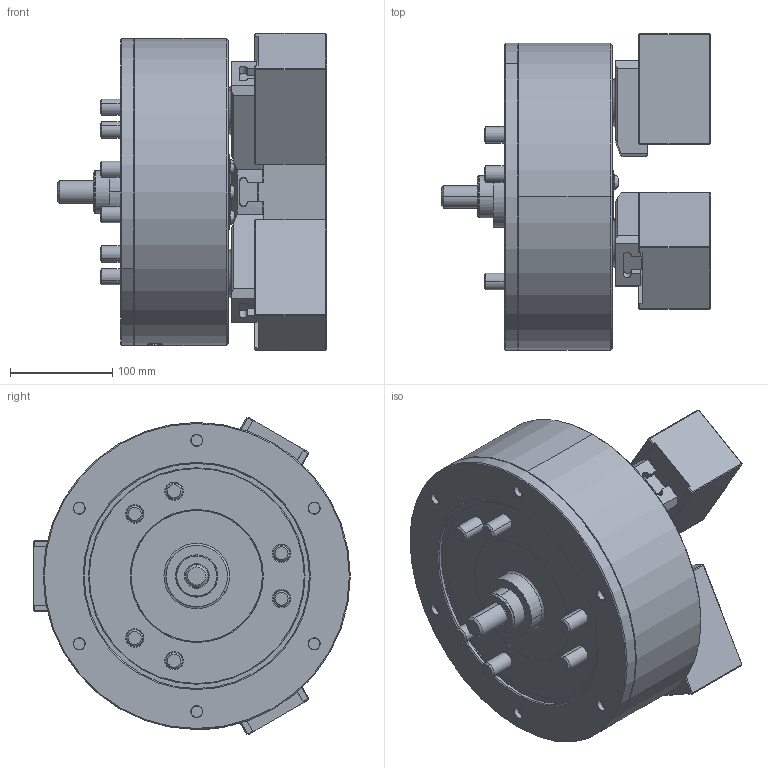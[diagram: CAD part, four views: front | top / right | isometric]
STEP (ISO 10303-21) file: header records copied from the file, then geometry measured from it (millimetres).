
FILE_DESCRIPTION (( 'STEP AP214' ), '1' );
FILE_NAME ('PW-12_CL_ID.STEP', '2025-08-18T07:02:34', ( '' ), ( '' ), 'SwSTEP 2.0', 'SolidWorks 2022', '' );
FILE_SCHEMA (( 'AUTOMOTIVE_DESIGN' ));
Length unit declared in the file: millimetre
Products named in the file (6): PW-12_CL_ID; 61P323264; 61P420193; 0030116025; 結合_ID; 0030116105
Assembly tree (19 placements, depth 2):
  PW-12_CL_ID
    61P323264  x3
    61P420193  x3
    0030116025  x6
    0030116105  x6
    結合_ID
Bounding box: 262.8 x 309.28 x 309.92 mm (x, y, z)
Volume: 9048500.1 mm3; surface area: 607298 mm2
Topology: 19 solids, 20 shells, 1618 faces, 3993 edges, 2533 vertices
Faces by surface type: plane 814, cone 332, cylinder 251, bspline 185, torus 34, sphere 2
Entity records: 46591 total; most frequent: CARTESIAN_POINT 17227, ORIENTED_EDGE 6362, DIRECTION 5333, EDGE_CURVE 3181, VERTEX_POINT 2043, VECTOR 1779, LINE 1779, AXIS2_PLACEMENT_3D 1777
